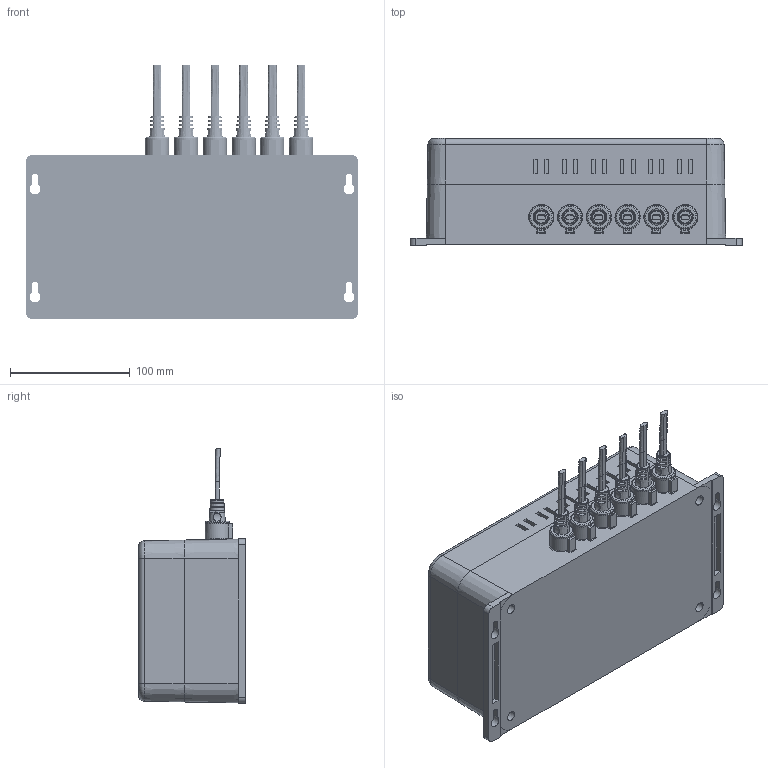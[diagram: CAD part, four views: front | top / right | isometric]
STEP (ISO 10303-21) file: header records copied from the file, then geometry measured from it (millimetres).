
FILE_DESCRIPTION((''),'2;1');
FILE_NAME('CB4M','2015-03-18T',('lily'),(''),'PRO/ENGINEER BY PARAMETRIC TECHNOLOGY CORPORATION, 2014200','PRO/ENGINEER BY PARAMETRIC TECHNOLOGY CORPORATION, 2014200','');
FILE_SCHEMA(('CONFIG_CONTROL_DESIGN'));
Products named in the file (1): CB4M
Bounding box: 276.75 x 89 x 211.78 mm (x, y, z)
Volume: 280605.4 mm3; surface area: 391564.8 mm2
Topology: 7 solids, 8 shells, 2020 faces, 5551 edges, 3691 vertices
Faces by surface type: plane 932, cylinder 878, bspline 110, cone 42, torus 32, sphere 14, extrusion 12
Entity records: 89127 total; most frequent: CARTESIAN_POINT 38484, ORIENTED_EDGE 11066, DIRECTION 9853, EDGE_CURVE 5537, VERTEX_POINT 3691, AXIS2_PLACEMENT_3D 3456, VECTOR 2941, LINE 2929
